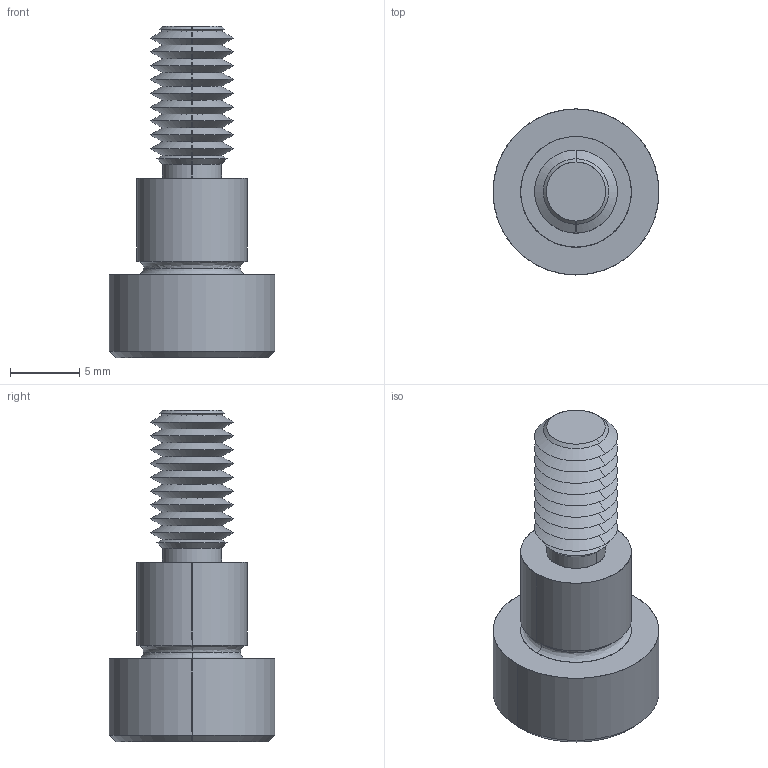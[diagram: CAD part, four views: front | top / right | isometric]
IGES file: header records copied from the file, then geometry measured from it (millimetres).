
Start section: SolidWorks IGES file using analytic representation for surfaces
Global section: file name: C:\Users\IanO\Documents\Temp Folder\GENERAL\SCREW REVISION\P0130_v2\P0130.T5_v2_20220106_IGES\P0130.080-007-T5.igs; native system: SolidWorks 2019; preprocessor: SolidWorks 2019; author: IanO; date: 220106.223114; units: millimetre
Bounding box: 12 x 12 x 24 mm (x, y, z)
Surface area: 1012.2 mm2 (no closed solid volume)
Topology: 0 solids, 0 shells, 80 faces, 580 edges, 578 vertices
Faces by surface type: revolution 60, bspline 20
